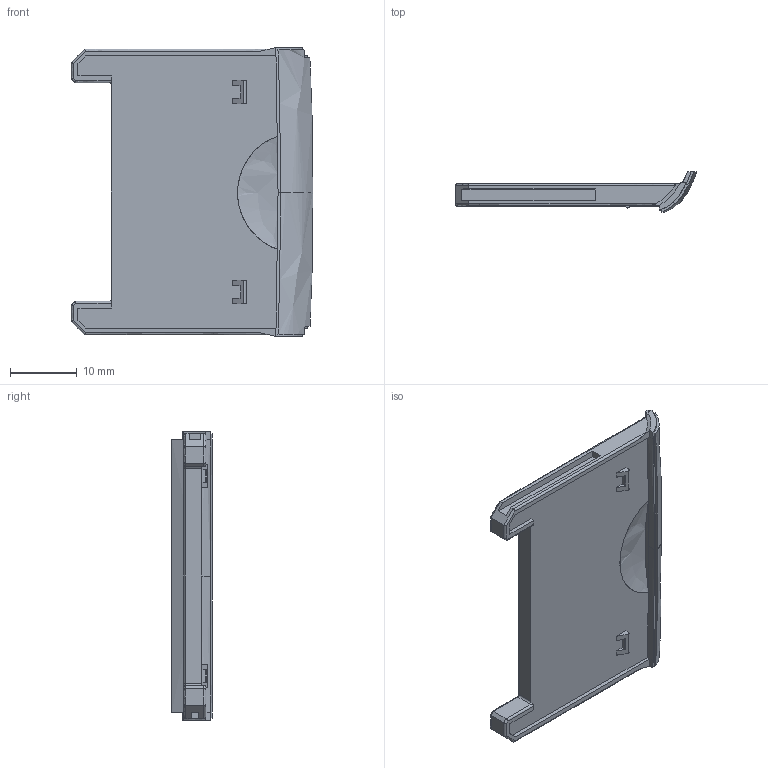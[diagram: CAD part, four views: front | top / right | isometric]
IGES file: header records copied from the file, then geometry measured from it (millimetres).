
Start section:  PTC IGES file: filler-cf-card_prt.igs
Global section: file name: filler-cf-card_prt.igs; native system: Pro/ENGINEER by Parametric Technology Corporation; preprocessor: 2000030; author: ECaille; organization: Unknown; date: 000803.091947; units: millimetre
Bounding box: 36.2 x 6.03 x 43.3 mm (x, y, z)
Surface area: 3656.6 mm2 (no closed solid volume)
Topology: 0 solids, 0 shells, 119 faces, 1066 edges, 1500 vertices
Faces by surface type: bspline 78, revolution 33, extrusion 8
